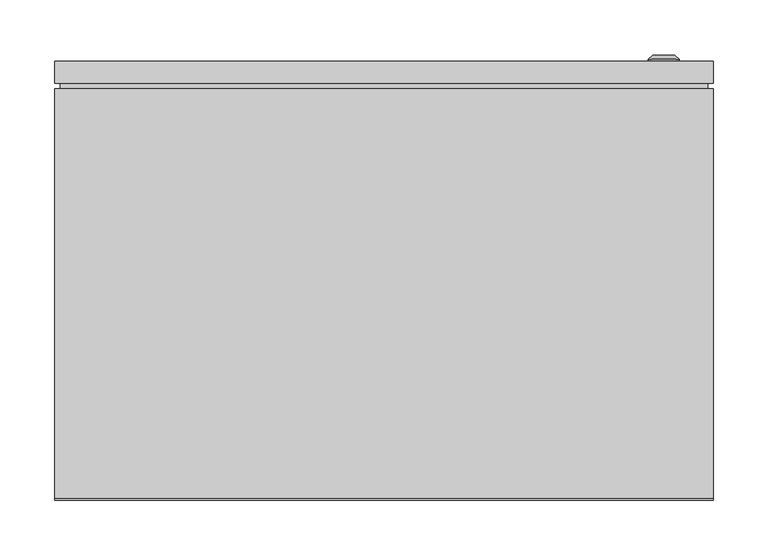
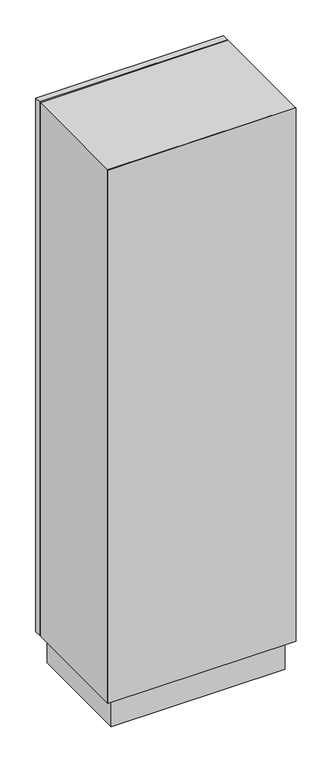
"""IFC4 building model written with IfcOpenShell, lengths in millimetres: proxy geometry, ЩМП_IP65 : ЩМП-18.6.4-0_1800х600х400."""

from ifc_helpers import new_model, si_unit, frame, origin, origin_with_axes, place, context, project, spatial, polyline, circle_curve, outline, extrude, source, transform, mapped, element, save
from ifc_brep_helpers import plane_surface, cylinder_surface, revolved_surface, advanced_brep


def electrical_equipment_7cce7357(model_context):
    return source(origin(), model_context, "Body", "SolidModel", [
        extrude(outline(polyline([(277.5067809, 377.5), (277.5067809, 22.5), (-277.5, 22.5), (-277.5, 377.5), (277.5067809, 377.5)])), frame((0.0, 0.0, -100.0), z_axis=(0.0, 0.0, 1.0), x_axis=(1.0, 0.0, 0.0)), (0.0, 0.0, 1.0), 100.0),
        extrude(outline(polyline([(295.0, 375.0), (-295.0, 375.0), (-295.0, 380.0), (295.0, 380.0), (295.0, 375.0)])), frame((0.0, 0.0, 5.0), z_axis=(0.0, 0.0, 1.0), x_axis=(1.0, 0.0, 0.0)), (0.0, 0.0, 1.0), 1790.0),
        extrude(outline(polyline([(300.0, 380.0), (-300.0, 380.0), (-300.0, 400.0), (300.0, 400.0), (300.0, 380.0)])), origin_with_axes(), (0.0, 0.0, 1.0), 1800.0),
        advanced_brep(
        [(240.669873, 400.0, 900.0), (269.330127, 400.0, 900.0), (255.0, 400.0, 900.0), (240.669873, 402.366592, 900.0), (269.330127, 402.366592, 900.0), (245.0, 406.0, 900.0), (265.0, 406.0, 900.0), (253.1080471, 406.0, 900.0), (256.8919529, 406.0, 900.0), (253.1080471, 404.9822294, 900.0), (256.8919529, 404.9822294, 900.0), (255.0, 404.9822294, 900.0)],
        [
            (0, 1, circle_curve(frame((255.0, 400.0, 900.0), z_axis=(0.0, -1.0, 0.0), x_axis=(1.0, 0.0, 0.0)), 14.330127)),
            (1, 2),
            (2, 0),
            (1, 0, circle_curve(frame((255.0, 400.0, 900.0), z_axis=(0.0, -1.0, 0.0), x_axis=(1.0, 0.0, 0.0)), 14.330127)),
            (3, 4, circle_curve(frame((255.0, 402.366592, 900.0), z_axis=(0.0, -1.0, 0.0), x_axis=(1.0, 0.0, 0.0)), 14.330127)),
            (4, 1),
            (0, 3),
            (4, 3, circle_curve(frame((255.0, 402.366592, 900.0), z_axis=(0.0, -1.0, 0.0), x_axis=(1.0, 0.0, 0.0)), 14.330127)),
            (5, 6, circle_curve(frame((255.0, 406.0, 900.0), z_axis=(0.0, -1.0, 0.0), x_axis=(1.0, 0.0, 0.0)), 10.0)),
            (6, 4),
            (3, 5),
            (6, 5, circle_curve(frame((255.0, 406.0, 900.0), z_axis=(0.0, -1.0, 0.0), x_axis=(1.0, 0.0, 0.0)), 10.0)),
            (7, 8, circle_curve(frame((255.0, 406.0, 900.0), z_axis=(0.0, -1.0, 0.0), x_axis=(1.0, 0.0, 0.0)), 1.8919529)),
            (8, 6),
            (5, 7),
            (8, 7, circle_curve(frame((255.0, 406.0, 900.0), z_axis=(0.0, -1.0, 0.0), x_axis=(1.0, 0.0, 0.0)), 1.8919529)),
            (9, 10, circle_curve(frame((255.0, 404.9822294, 900.0), z_axis=(0.0, -1.0, 0.0), x_axis=(1.0, 0.0, 0.0)), 1.8919529)),
            (10, 8),
            (7, 9),
            (10, 9, circle_curve(frame((255.0, 404.9822294, 900.0), z_axis=(0.0, -1.0, 0.0), x_axis=(1.0, 0.0, 0.0)), 1.8919529)),
            (11, 10),
            (9, 11),
        ],
        [
            plane_surface(frame((255.0, 400.0, 900.0), z_axis=(0.0, -1.0, 0.0), x_axis=(1.0, 0.0, 0.0))),
            cylinder_surface(frame((255.0, 413.1348851, 900.0), z_axis=(0.0, 1.0, 0.0), x_axis=(1.0, 0.0, 0.0)), 14.330127),
            revolved_surface(polyline([(269.330127, 402.366592, 900.0), (265.0, 406.0, 900.0)]), (255.0, 413.1348851, 900.0), (0.0, 1.0, 0.0)),
            plane_surface(frame((255.0, 406.0, 900.0), z_axis=(0.0, 1.0, 0.0), x_axis=(1.0, 0.0, 0.0))),
            revolved_surface(polyline([(256.8919529, 406.0, 900.0), (256.8919529, 404.9822294, 900.0)]), (255.0, 413.1348851, 900.0), (0.0, 1.0, 0.0)),
            plane_surface(frame((255.0, 404.9822294, 900.0), z_axis=(0.0, 1.0, 0.0), x_axis=(1.0, 0.0, 0.0))),
        ],
        [
            (0, [[1, 2, 3]]),
            (0, [[4, -3, -2]]),
            (1, [[5, 6, -1, 7]]),
            (1, [[8, -7, -4, -6]]),
            (2, [[9, 10, -5, 11]]),
            (2, [[12, -11, -8, -10]]),
            (3, [[13, 14, -9, 15]]),
            (3, [[16, -15, -12, -14]]),
            (4, [[17, 18, -13, 19]]),
            (4, [[20, -19, -16, -18]]),
            (5, [[21, -17, 22]]),
            (5, [[-22, -20, -21]]),
        ],
    ),
        extrude(outline(polyline([(1800.0, -300.0033905), (0.0, -300.0033905), (0.0, 299.9966095), (1800.0, 299.9966095), (1800.0, -300.0033905)]), holes=[polyline([(1765.0, -265.0033905), (1765.0, 264.9966095), (35.0, 264.9966095), (35.0, -265.0033905), (1765.0, -265.0033905)])]), frame((0.0, 2.0, 0.0), z_axis=(0.0, 1.0, 0.0), x_axis=(0.0, 0.0, 1.0)), (0.0, 0.0, 1.0), 373.0),
        extrude(outline(polyline([(300.0, 0.0), (-300.0, 0.0), (-300.0, 2.0), (300.0, 2.0), (300.0, 0.0)])), origin_with_axes(), (0.0, 0.0, 1.0), 1800.0),
    ])


if __name__ == "__main__":
    model = new_model("IFC4")
    model_context = context("Model", 3, world=origin())
    ifc_project = project(units=[si_unit("LENGTHUNIT", "METRE", prefix="MILLI")], contexts=[model_context])
    site = spatial("IfcSite", under=ifc_project)
    building = spatial("IfcBuilding", under=site)
    placement = place(None, origin())
    electrical_equipment_shape = electrical_equipment_7cce7357(model_context)
    element("IfcBuildingElementProxy", 1, Name="ЩМП_IP65 : ЩМП-18.6.4-0_1800х600х400", ObjectType="ЩМП_IP65 : ЩМП-18.6.4-0_1800х600х400", at=placement, inside=building, context=model_context, shape_type="MappedRepresentation", body=[
        mapped(electrical_equipment_shape, transform((0.0, 0.0, 0.0), x_axis=(1.0, 0.0, 0.0), y_axis=(0.0, 1.0, 0.0), z_axis=(0.0, 0.0, 1.0))),
    ])
    save(model, "model.ifc")
